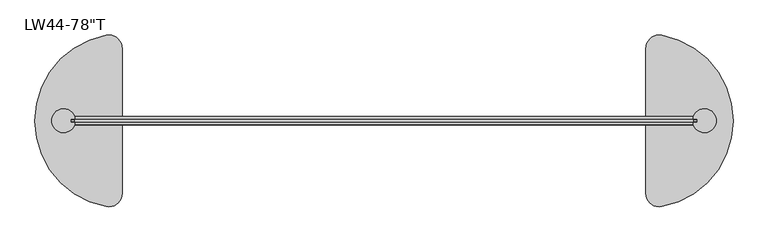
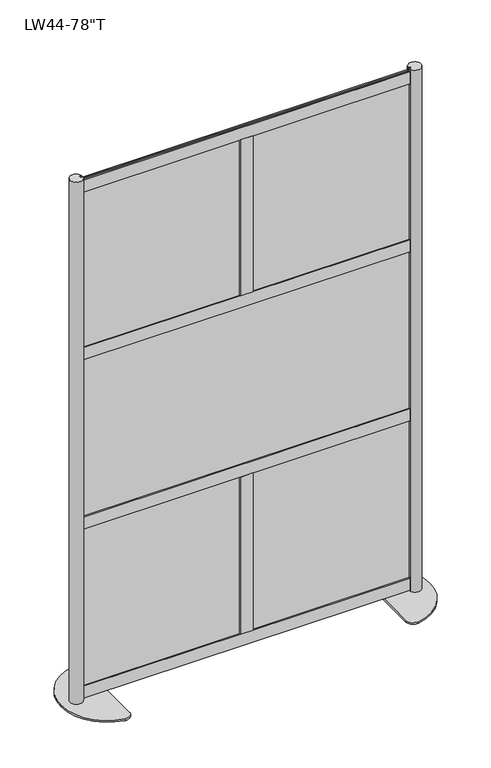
"""IFC4 building model written with IfcOpenShell, lengths in millimetres: furniture geometry."""

from ifc_helpers import new_model, si_unit, point, frame, frame_2d, origin, origin_with_axes, place, context, project, spatial, polyline, circle_curve, trimmed, segment, composite_curve, outline, extrude, source, transform, mapped, element, save


def furniture_378eb53b(model_context):
    return source(origin(), model_context, "Body", "SweptSolid", [
        extrude(outline(polyline([(594.51875, -1.5875), (-594.51875, -1.5875), (-594.51875, 1.5875), (594.51875, 1.5875), (594.51875, -1.5875)])), frame((0.0, 0.0, 689.2671), z_axis=(0.0, 0.0, 1.0), x_axis=(1.0, 0.0, 0.0)), (0.0, 0.0, 1.0), 608.965),
        extrude(outline(polyline([(592.9137189, 1.5875), (592.9138926, -1.5875), (15.0638917, -1.5875), (15.063718, 1.5875), (592.9137189, 1.5875)])), frame((0.0, 0.0, 1324.2670292), z_axis=(0.0, 0.0, 1.0), x_axis=(1.0, 0.0, 0.0)), (0.0, 0.0, 1.0), 608.965),
        extrude(outline(polyline([(-592.9137189, 1.5875), (-15.063718, 1.5875), (-15.0638917, -1.5875), (-592.9138926, -1.5875), (-592.9137189, 1.5875)])), frame((0.0, 0.0, 1324.2670292), z_axis=(0.0, 0.0, 1.0), x_axis=(1.0, 0.0, 0.0)), (0.0, 0.0, 1.0), 608.965),
        extrude(outline(polyline([(592.9137189, 1.5875), (592.9138926, -1.5875), (15.0638917, -1.5875), (15.063718, 1.5875), (592.9137189, 1.5875)])), frame((0.0, 0.0, 49.2633), z_axis=(0.0, 0.0, 1.0), x_axis=(1.0, 0.0, 0.0)), (0.0, 0.0, 1.0), 608.965),
        extrude(outline(polyline([(-592.9137189, 1.5875), (-15.063718, 1.5875), (-15.0638917, -1.5875), (-592.9138926, -1.5875), (-592.9137189, 1.5875)])), frame((0.0, 0.0, 49.2633), z_axis=(0.0, 0.0, 1.0), x_axis=(1.0, 0.0, 0.0)), (0.0, 0.0, 1.0), 608.965),
        extrude(outline(polyline([(-22.6314, 3.556), (-22.6314, 7.6327), (22.6314, 7.6327), (22.6314, 3.556), (15.5194, 3.556), (15.5194, -3.556), (22.6314, -3.556), (22.6314, -7.6327), (-22.6314, -7.6327), (-22.6314, -3.556), (-15.5194, -3.556), (-15.5194, 3.556), (-22.6314, 3.556)])), frame((0.0, 0.0, 56.3753), z_axis=(0.0, 0.0, 1.0), x_axis=(1.0, 0.0, 0.0)), (0.0, 0.0, 1.0), 594.741),
        extrude(outline(polyline([(-22.6314, 3.556), (-22.6314, 7.6327), (22.6314, 7.6327), (22.6314, 3.556), (15.5194, 3.556), (15.5194, -3.556), (22.6314, -3.556), (22.6314, -7.6327), (-22.6314, -7.6327), (-22.6314, -3.556), (-15.5194, -3.556), (-15.5194, 3.556), (-22.6314, 3.556)])), frame((0.0, 0.0, 1336.3829), z_axis=(0.0, 0.0, 1.0), x_axis=(1.0, 0.0, 0.0)), (0.0, 0.0, 1.0), 590.0293),
        extrude(outline(polyline([(3.556, 651.1163), (3.556, 658.2283), (-3.556, 658.2283), (-3.556, 651.1163), (-7.6327, 651.1163), (-7.6327, 696.3791), (-3.556, 696.3791), (-3.556, 689.2671), (3.556, 689.2671), (3.556, 696.3791), (7.6327, 696.3791), (7.6327, 651.1163), (3.556, 651.1163)])), frame((-584.9874, 0.0, 0.0), z_axis=(1.0, 0.0, 0.0), x_axis=(0.0, 1.0, 0.0)), (0.0, 0.0, 1.0), 1169.9748),
        extrude(outline(polyline([(3.556, 1291.1201), (3.556, 1298.2321), (-3.556, 1298.2321), (-3.556, 1291.1201), (-7.6327, 1291.1201), (-7.6327, 1336.3829), (-3.556, 1336.3829), (-3.556, 1329.2709), (3.556, 1329.2709), (3.556, 1336.3829), (7.6327, 1336.3829), (7.6327, 1291.1201), (3.556, 1291.1201)])), frame((-584.9874, 0.0, 0.0), z_axis=(1.0, 0.0, 0.0), x_axis=(0.0, 1.0, 0.0)), (0.0, 0.0, 1.0), 1169.9748),
        extrude(outline(polyline([(3.556, 11.1125), (3.556, 18.2245), (-3.556, 18.2245), (-3.556, 11.1125), (-7.6327, 11.1125), (-7.6327, 56.3753), (-3.556, 56.3753), (-3.556, 49.2633), (3.556, 49.2633), (3.556, 56.3753), (7.6327, 56.3753), (7.6327, 11.1125), (3.556, 11.1125)])), frame((-585.0636, 0.0, 0.0), z_axis=(1.0, 0.0, 0.0), x_axis=(0.0, 1.0, 0.0)), (0.0, 0.0, 1.0), 1170.1272),
        extrude(outline(polyline([(3.556, 1926.1200292), (3.556, 1933.2320292), (-3.556, 1933.2320292), (-3.556, 1926.1200292), (-7.6327, 1926.1200292), (-7.6327, 1971.3828292), (-3.556, 1971.3828292), (-3.556, 1964.2708292), (3.556, 1964.2708292), (3.556, 1971.3828292), (7.6327, 1971.3828292), (7.6327, 1926.1200292), (3.556, 1926.1200292)])), frame((-585.0636, 0.0, 0.0), z_axis=(1.0, 0.0, 0.0), x_axis=(0.0, 1.0, 0.0)), (0.0, 0.0, 1.0), 1170.1272),
        extrude(outline(composite_curve([segment(polyline([(585.0636, -7.7568093), (585.0636, -3.556), (592.1756, -3.556), (592.1756, 3.556), (585.0636, 3.556), (585.0636, 7.7568093)]), True, "CONTINUOUS"), segment(trimmed(circle_curve(frame_2d((606.1665837, 0.0)), 22.4834163), [point((585.0636, 7.7568093))], [point((585.0636, -7.7568093))], False, "CARTESIAN"), True, "CONTINUOUS")], self_intersect=False)), frame((0.0, 0.0, 6.35), z_axis=(0.0, 0.0, 1.0), x_axis=(1.0, 0.0, 0.0)), (0.0, 0.0, 1.0), 1974.85),
        extrude(outline(composite_curve([segment(polyline([(495.3, -137.3715036), (495.3, 137.3715036)]), True, "CONTINUOUS"), segment(trimmed(circle_curve(frame_2d((520.7, 137.3715036)), 25.4), [point((495.3, 137.3715036))], [point((525.3181818, 162.3481406))], False, "CARTESIAN"), True, "CONTINUOUS"), segment(trimmed(circle_curve(frame_2d((495.3, 0.0)), 165.1), [point((525.3181818, 162.3481406))], [point((660.4, 0.0))], False, "CARTESIAN"), True, "CONTINUOUS"), segment(trimmed(circle_curve(frame_2d((495.3, 0.0)), 165.1), [point((660.4, 0.0))], [point((525.3181818, -162.3481406))], False, "CARTESIAN"), True, "CONTINUOUS"), segment(trimmed(circle_curve(frame_2d((520.7, -137.3715036)), 25.4), [point((525.3181818, -162.3481406))], [point((495.3, -137.3715036))], False, "CARTESIAN"), True, "CONTINUOUS")], self_intersect=False)), origin_with_axes(), (0.0, 0.0, 1.0), 6.35),
        extrude(outline(composite_curve([segment(trimmed(circle_curve(frame_2d((-606.1665837, 0.0)), 22.4834163), [point((-585.0636, -7.7568093))], [point((-585.0636, 7.7568093))], False, "CARTESIAN"), True, "CONTINUOUS"), segment(polyline([(-585.0636, 7.7568093), (-585.0636, 3.556), (-592.1756, 3.556), (-592.1756, -3.556), (-585.0636, -3.556), (-585.0636, -7.7568093)]), True, "CONTINUOUS")], self_intersect=False)), frame((0.0, 0.0, 6.35), z_axis=(0.0, 0.0, 1.0), x_axis=(1.0, 0.0, 0.0)), (0.0, 0.0, 1.0), 1974.85),
        extrude(outline(composite_curve([segment(trimmed(circle_curve(frame_2d((-520.7, -137.3715036)), 25.4), [point((-495.3, -137.3715036))], [point((-525.3181818, -162.3481406))], False, "CARTESIAN"), True, "CONTINUOUS"), segment(trimmed(circle_curve(frame_2d((-495.3, 0.0)), 165.1), [point((-525.3181818, -162.3481406))], [point((-660.4, 0.0))], False, "CARTESIAN"), True, "CONTINUOUS"), segment(trimmed(circle_curve(frame_2d((-495.3, 0.0)), 165.1), [point((-660.4, 0.0))], [point((-525.3181818, 162.3481406))], False, "CARTESIAN"), True, "CONTINUOUS"), segment(trimmed(circle_curve(frame_2d((-520.7, 137.3715036)), 25.4), [point((-525.3181818, 162.3481406))], [point((-495.3, 137.3715036))], False, "CARTESIAN"), True, "CONTINUOUS"), segment(polyline([(-495.3, 137.3715036), (-495.3, -137.3715036)]), True, "CONTINUOUS")], self_intersect=False)), origin_with_axes(), (0.0, 0.0, 1.0), 6.35),
    ])


if __name__ == "__main__":
    model = new_model("IFC4")
    model_context = context("Model", 3, world=origin())
    ifc_project = project(units=[si_unit("LENGTHUNIT", "METRE", prefix="MILLI")], contexts=[model_context])
    site = spatial("IfcSite", under=ifc_project)
    building = spatial("IfcBuilding", under=site)
    placement = place(None, origin())
    furniture_shape = furniture_378eb53b(model_context)
    element("IfcFurniture", 1, ObjectType="Loft_Wall-Framewall-52 : LW44-78\"T", at=placement, inside=building, context=model_context, shape_type="MappedRepresentation", body=[
        mapped(furniture_shape, transform((0.0, 0.0, 0.0), x_axis=(1.0, 0.0, 0.0), y_axis=(0.0, 1.0, 0.0), z_axis=(0.0, 0.0, 1.0))),
    ])
    save(model, "model.ifc")
